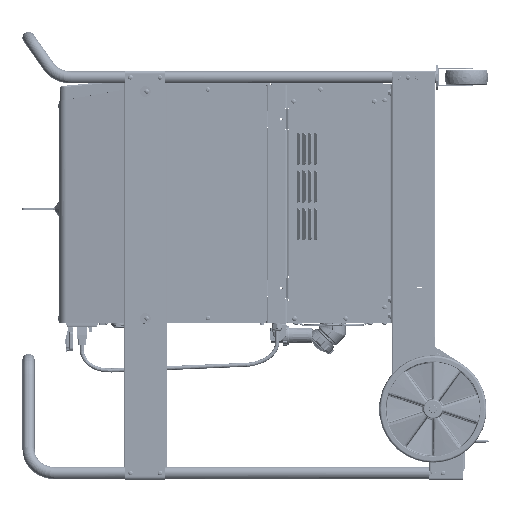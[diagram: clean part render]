
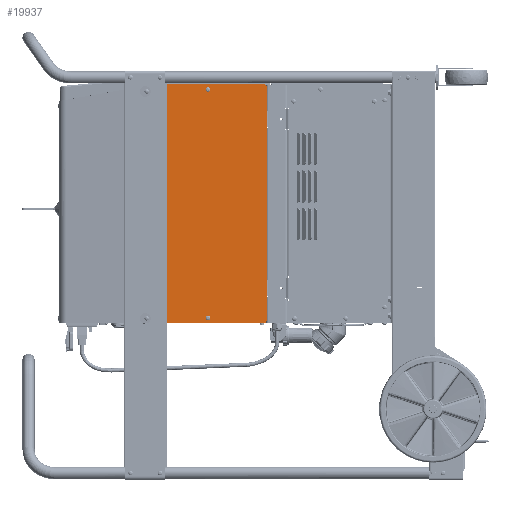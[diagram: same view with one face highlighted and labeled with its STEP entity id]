
A CAD part, left-side view. The second image highlights one B-rep face of the part: STEP entity #19937.
In plain terms, the highlighted planar face has unit normal (-1, 0, 0) as drawn and (0, 0, 1) by its records, which use the part's own axes.
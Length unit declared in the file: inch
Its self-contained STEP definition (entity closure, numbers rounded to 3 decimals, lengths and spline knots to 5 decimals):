
#9449 = ORIENTED_EDGE ( 'NONE', *, *, #355966, .T. ) ;
#10223 = VECTOR ( 'NONE', #361257, 39.37008 ) ;
#12425 = CARTESIAN_POINT ( 'NONE',  ( -11.1005, 4.70767, 0. ) ) ;
#19937 = ADVANCED_FACE ( 'NONE', ( #188439, #153772, #447721 ), #375896, .F. ) ;
#20060 = EDGE_CURVE ( 'NONE', #404884, #243837, #404797, .T. ) ;
#34261 = EDGE_CURVE ( 'NONE', #539138, #417148, #642093, .T. ) ;
#37533 = AXIS2_PLACEMENT_3D ( 'NONE', #322455, #713837, #47242 ) ;
#47242 = DIRECTION ( 'NONE',  ( 1., 0., 0. ) ) ;
#51074 = DIRECTION ( 'NONE',  ( 1., 0., 0. ) ) ;
#65123 = DIRECTION ( 'NONE',  ( 0., 1., 0. ) ) ;
#66266 = ORIENTED_EDGE ( 'NONE', *, *, #96454, .F. ) ;
#69655 = CARTESIAN_POINT ( 'NONE',  ( -10.6005, 0.73915, 0. ) ) ;
#73200 = DIRECTION ( 'NONE',  ( 0., 1., 0. ) ) ;
#75409 = VECTOR ( 'NONE', #173054, 39.37008 ) ;
#83843 = EDGE_CURVE ( 'NONE', #143619, #141326, #356925, .T. ) ;
#88495 = VECTOR ( 'NONE', #409491, 39.37008 ) ;
#94295 = CARTESIAN_POINT ( 'NONE',  ( -10.741, 0.73915, 0. ) ) ;
#96454 = EDGE_CURVE ( 'NONE', #119364, #617519, #383658, .T. ) ;
#101335 = CIRCLE ( 'NONE', #380645, 0.25 ) ;
#104900 = LINE ( 'NONE', #687468, #10223 ) ;
#114947 = LINE ( 'NONE', #271343, #123336 ) ;
#119364 = VERTEX_POINT ( 'NONE', #155694 ) ;
#120083 = DIRECTION ( 'NONE',  ( 0., 0., 1. ) ) ;
#123336 = VECTOR ( 'NONE', #713369, 39.37008 ) ;
#128209 = CIRCLE ( 'NONE', #315865, 0.1405 ) ;
#131096 = EDGE_CURVE ( 'NONE', #243837, #651461, #354964, .T. ) ;
#141326 = VERTEX_POINT ( 'NONE', #242088 ) ;
#142516 = CIRCLE ( 'NONE', #320716, 0.25 ) ;
#142570 = DIRECTION ( 'NONE',  ( -1., 0., 0. ) ) ;
#143619 = VERTEX_POINT ( 'NONE', #313339 ) ;
#153772 = FACE_OUTER_BOUND ( 'NONE', #575186, .T. ) ;
#155694 = CARTESIAN_POINT ( 'NONE',  ( 8.6005, -4.70767, 0. ) ) ;
#155801 = VERTEX_POINT ( 'NONE', #269833 ) ;
#166698 = DIRECTION ( 'NONE',  ( 0., 0., 1. ) ) ;
#166983 = EDGE_LOOP ( 'NONE', ( #291216, #447142 ) ) ;
#173054 = DIRECTION ( 'NONE',  ( -1., 0., 0. ) ) ;
#188439 = FACE_BOUND ( 'NONE', #166983, .T. ) ;
#191387 = CARTESIAN_POINT ( 'NONE',  ( -10.8505, -4.70767, 0. ) ) ;
#194502 = CARTESIAN_POINT ( 'NONE',  ( -10.46, 0.73915, 0. ) ) ;
#198093 = CARTESIAN_POINT ( 'NONE',  ( 11.1005, -4.70767, 0. ) ) ;
#199299 = CARTESIAN_POINT ( 'NONE',  ( -11.1005, -4.70767, 0. ) ) ;
#200826 = ORIENTED_EDGE ( 'NONE', *, *, #83843, .F. ) ;
#202565 = EDGE_CURVE ( 'NONE', #638344, #418733, #711064, .T. ) ;
#224585 = CARTESIAN_POINT ( 'NONE',  ( -10.8505, -4.45767, 0. ) ) ;
#225261 = EDGE_CURVE ( 'NONE', #417148, #539138, #234381, .T. ) ;
#234381 = CIRCLE ( 'NONE', #253937, 0.1405 ) ;
#242088 = CARTESIAN_POINT ( 'NONE',  ( 11.1005, -4.45767, 0. ) ) ;
#242247 = CARTESIAN_POINT ( 'NONE',  ( 10.8505, -4.45767, 0. ) ) ;
#243837 = VERTEX_POINT ( 'NONE', #627731 ) ;
#244088 = EDGE_LOOP ( 'NONE', ( #324028, #533987 ) ) ;
#253937 = AXIS2_PLACEMENT_3D ( 'NONE', #69655, #287116, #509244 ) ;
#258101 = CARTESIAN_POINT ( 'NONE',  ( 10.741, 0.73915, 0. ) ) ;
#263760 = DIRECTION ( 'NONE',  ( 0., 0., 1. ) ) ;
#269833 = CARTESIAN_POINT ( 'NONE',  ( 10.46, 0.73915, 0. ) ) ;
#271343 = CARTESIAN_POINT ( 'NONE',  ( 11.1005, -4.70767, 0. ) ) ;
#271618 = DIRECTION ( 'NONE',  ( 0., -1., 0. ) ) ;
#287116 = DIRECTION ( 'NONE',  ( 0., 0., 1. ) ) ;
#291216 = ORIENTED_EDGE ( 'NONE', *, *, #588516, .F. ) ;
#295432 = DIRECTION ( 'NONE',  ( 0., 0., 1. ) ) ;
#304990 = LINE ( 'NONE', #622792, #538474 ) ;
#305129 = ORIENTED_EDGE ( 'NONE', *, *, #470888, .T. ) ;
#312669 = DIRECTION ( 'NONE',  ( -1., 0., 0. ) ) ;
#313339 = CARTESIAN_POINT ( 'NONE',  ( 11.1005, 4.70767, 0. ) ) ;
#315865 = AXIS2_PLACEMENT_3D ( 'NONE', #490710, #263760, #51074 ) ;
#320716 = AXIS2_PLACEMENT_3D ( 'NONE', #242247, #295432, #73200 ) ;
#322455 = CARTESIAN_POINT ( 'NONE',  ( -10.6005, 0.73915, 0. ) ) ;
#324028 = ORIENTED_EDGE ( 'NONE', *, *, #225261, .F. ) ;
#336072 = CARTESIAN_POINT ( 'NONE',  ( -7.1005, -4.70767, 0. ) ) ;
#339654 = DIRECTION ( 'NONE',  ( 0., 1., 0. ) ) ;
#354341 = ORIENTED_EDGE ( 'NONE', *, *, #513774, .F. ) ;
#354964 = LINE ( 'NONE', #199299, #709272 ) ;
#355966 = EDGE_CURVE ( 'NONE', #418733, #651461, #101335, .T. ) ;
#356925 = LINE ( 'NONE', #607007, #478393 ) ;
#361257 = DIRECTION ( 'NONE',  ( -1., 0., 0. ) ) ;
#361930 = ORIENTED_EDGE ( 'NONE', *, *, #505645, .F. ) ;
#375386 = ORIENTED_EDGE ( 'NONE', *, *, #572154, .T. ) ;
#375896 = PLANE ( 'NONE',  #703486 ) ;
#380645 = AXIS2_PLACEMENT_3D ( 'NONE', #224585, #166698, #65123 ) ;
#383658 = LINE ( 'NONE', #198093, #426656 ) ;
#390490 = CARTESIAN_POINT ( 'NONE',  ( 11.1005, 4.70767, 0. ) ) ;
#392886 = CARTESIAN_POINT ( 'NONE',  ( 11.1005, -4.70767, 0. ) ) ;
#404797 = LINE ( 'NONE', #392886, #75409 ) ;
#404884 = VERTEX_POINT ( 'NONE', #336072 ) ;
#409491 = DIRECTION ( 'NONE',  ( 0., -1., 0. ) ) ;
#410939 = CARTESIAN_POINT ( 'NONE',  ( -11.1005, -4.45767, 0. ) ) ;
#417148 = VERTEX_POINT ( 'NONE', #194502 ) ;
#418733 = VERTEX_POINT ( 'NONE', #410939 ) ;
#426656 = VECTOR ( 'NONE', #142570, 39.37008 ) ;
#447142 = ORIENTED_EDGE ( 'NONE', *, *, #518173, .F. ) ;
#447721 = FACE_BOUND ( 'NONE', #244088, .T. ) ;
#470888 = EDGE_CURVE ( 'NONE', #143619, #638344, #104900, .T. ) ;
#478393 = VECTOR ( 'NONE', #271618, 39.37008 ) ;
#490710 = CARTESIAN_POINT ( 'NONE',  ( 10.6005, 0.73915, 0. ) ) ;
#505645 = EDGE_CURVE ( 'NONE', #617519, #404884, #304990, .T. ) ;
#506355 = DIRECTION ( 'NONE',  ( 0., 0., -1. ) ) ;
#509244 = DIRECTION ( 'NONE',  ( 1., 0., 0. ) ) ;
#513774 = EDGE_CURVE ( 'NONE', #619472, #119364, #114947, .T. ) ;
#518173 = EDGE_CURVE ( 'NONE', #155801, #653806, #128209, .T. ) ;
#533987 = ORIENTED_EDGE ( 'NONE', *, *, #34261, .F. ) ;
#535458 = ORIENTED_EDGE ( 'NONE', *, *, #131096, .F. ) ;
#538474 = VECTOR ( 'NONE', #618063, 39.37008 ) ;
#539138 = VERTEX_POINT ( 'NONE', #94295 ) ;
#572154 = EDGE_CURVE ( 'NONE', #619472, #141326, #142516, .T. ) ;
#575186 = EDGE_LOOP ( 'NONE', ( #587059, #9449, #535458, #694602, #361930, #66266, #354341, #375386, #200826, #305129 ) ) ;
#576354 = CARTESIAN_POINT ( 'NONE',  ( 7.1005, -4.70767, 0. ) ) ;
#587059 = ORIENTED_EDGE ( 'NONE', *, *, #202565, .T. ) ;
#588516 = EDGE_CURVE ( 'NONE', #653806, #155801, #677500, .T. ) ;
#607007 = CARTESIAN_POINT ( 'NONE',  ( 11.1005, 4.70767, 0. ) ) ;
#617519 = VERTEX_POINT ( 'NONE', #576354 ) ;
#618063 = DIRECTION ( 'NONE',  ( -1., 0., 0. ) ) ;
#619472 = VERTEX_POINT ( 'NONE', #628811 ) ;
#621929 = CARTESIAN_POINT ( 'NONE',  ( -11.1005, 4.70767, 0. ) ) ;
#622792 = CARTESIAN_POINT ( 'NONE',  ( -7.1005, -4.70767, 0. ) ) ;
#627731 = CARTESIAN_POINT ( 'NONE',  ( -8.6005, -4.70767, 0. ) ) ;
#628811 = CARTESIAN_POINT ( 'NONE',  ( 10.8505, -4.70767, 0. ) ) ;
#638344 = VERTEX_POINT ( 'NONE', #12425 ) ;
#642093 = CIRCLE ( 'NONE', #37533, 0.1405 ) ;
#651461 = VERTEX_POINT ( 'NONE', #191387 ) ;
#653806 = VERTEX_POINT ( 'NONE', #258101 ) ;
#665991 = CARTESIAN_POINT ( 'NONE',  ( 10.6005, 0.73915, 0. ) ) ;
#668457 = DIRECTION ( 'NONE',  ( 1., 0., 0. ) ) ;
#677500 = CIRCLE ( 'NONE', #684438, 0.1405 ) ;
#684438 = AXIS2_PLACEMENT_3D ( 'NONE', #665991, #120083, #668457 ) ;
#687468 = CARTESIAN_POINT ( 'NONE',  ( 11.1005, 4.70767, 0. ) ) ;
#694602 = ORIENTED_EDGE ( 'NONE', *, *, #20060, .F. ) ;
#703486 = AXIS2_PLACEMENT_3D ( 'NONE', #390490, #506355, #339654 ) ;
#709272 = VECTOR ( 'NONE', #312669, 39.37008 ) ;
#711064 = LINE ( 'NONE', #621929, #88495 ) ;
#713369 = DIRECTION ( 'NONE',  ( -1., 0., 0. ) ) ;
#713837 = DIRECTION ( 'NONE',  ( 0., 0., 1. ) ) ;
